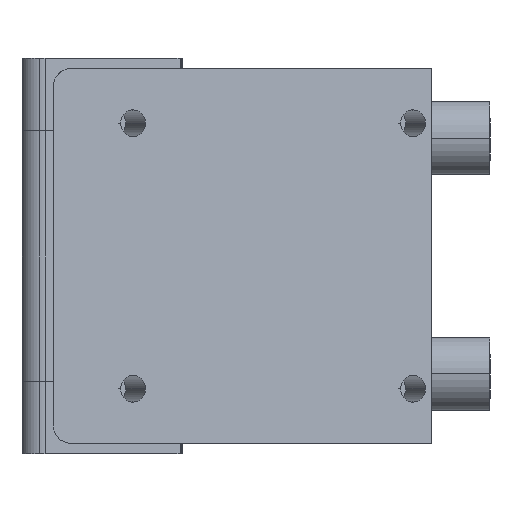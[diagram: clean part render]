
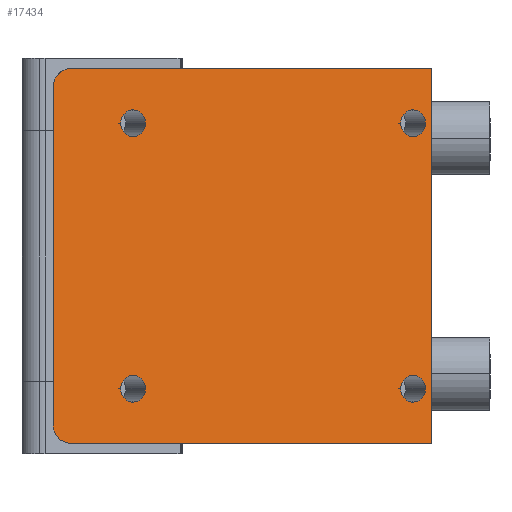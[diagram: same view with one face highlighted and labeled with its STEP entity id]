
A CAD part, left-side view. The second image highlights one B-rep face of the part: STEP entity #17434.
In plain terms, the highlighted planar face has unit normal (-0.94, -0.342, 0).
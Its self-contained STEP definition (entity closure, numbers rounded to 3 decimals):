
#34 = DIRECTION ( 'NONE',  ( 0.94, 0.342, 0. ) ) ;
#337 = VERTEX_POINT ( 'NONE', #1158 ) ;
#446 = VECTOR ( 'NONE', #11011, 1000. ) ;
#477 = VERTEX_POINT ( 'NONE', #5850 ) ;
#591 = EDGE_CURVE ( 'NONE', #4235, #21550, #9444, .T. ) ;
#843 = DIRECTION ( 'NONE',  ( 0.342, -0.94, 0. ) ) ;
#955 = CIRCLE ( 'NONE', #19304, 4.5 ) ;
#1137 = ORIENTED_EDGE ( 'NONE', *, *, #591, .T. ) ;
#1153 = EDGE_CURVE ( 'NONE', #9774, #1897, #4757, .T. ) ;
#1158 = CARTESIAN_POINT ( 'NONE',  ( 288.858, -16.649, 63.5 ) ) ;
#1263 = EDGE_LOOP ( 'NONE', ( #8737, #1137 ) ) ;
#1334 = AXIS2_PLACEMENT_3D ( 'NONE', #12872, #8618, #843 ) ;
#1663 =( BOUNDED_CURVE ( )  B_SPLINE_CURVE ( 3, ( #5653, #3904, #14034, #21936 ),
 .UNSPECIFIED., .F., .F. ) 
 B_SPLINE_CURVE_WITH_KNOTS ( ( 4, 4 ),
 ( 0., 1.571 ),
 .UNSPECIFIED. ) 
 CURVE ( )  GEOMETRIC_REPRESENTATION_ITEM ( )  RATIONAL_B_SPLINE_CURVE ( ( 1., 0.805, 0.805, 1. ) ) 
 REPRESENTATION_ITEM ( '' )  );
#1897 = VERTEX_POINT ( 'NONE', #20313 ) ;
#2168 = CARTESIAN_POINT ( 'NONE',  ( 286.674, -10.649, 61.015 ) ) ;
#2254 = EDGE_CURVE ( 'NONE', #9472, #25616, #22159, .T. ) ;
#2282 = CIRCLE ( 'NONE', #25762, 4.5 ) ;
#2421 = EDGE_LOOP ( 'NONE', ( #6309, #5363 ) ) ;
#2478 = DIRECTION ( 'NONE',  ( 0.94, 0.342, 0. ) ) ;
#2489 = PLANE ( 'NONE',  #3461 ) ;
#2567 = CARTESIAN_POINT ( 'NONE',  ( 286.674, -10.649, 57.5 ) ) ;
#2771 = EDGE_CURVE ( 'NONE', #21550, #4235, #7907, .T. ) ;
#3063 = DIRECTION ( 'NONE',  ( 0.94, 0.342, 0. ) ) ;
#3217 = CARTESIAN_POINT ( 'NONE',  ( 294.97, -33.442, 45. ) ) ;
#3376 = ORIENTED_EDGE ( 'NONE', *, *, #20753, .T. ) ;
#3461 = AXIS2_PLACEMENT_3D ( 'NONE', #24556, #18266, #16125 ) ;
#3541 = EDGE_CURVE ( 'NONE', #6238, #26355, #955, .T. ) ;
#3637 = CARTESIAN_POINT ( 'NONE',  ( 288.858, -16.649, -63.5 ) ) ;
#3902 = AXIS2_PLACEMENT_3D ( 'NONE', #18797, #25064, #16792 ) ;
#3904 = CARTESIAN_POINT ( 'NONE',  ( 286.674, -10.649, -61.015 ) ) ;
#4196 = ORIENTED_EDGE ( 'NONE', *, *, #10605, .T. ) ;
#4235 = VERTEX_POINT ( 'NONE', #3217 ) ;
#4391 = FACE_BOUND ( 'NONE', #21911, .T. ) ;
#4477 = CARTESIAN_POINT ( 'NONE',  ( 295.044, -33.645, 63.5 ) ) ;
#4580 = CARTESIAN_POINT ( 'NONE',  ( 288.858, -16.649, 63.5 ) ) ;
#4757 = LINE ( 'NONE', #6746, #446 ) ;
#5363 = ORIENTED_EDGE ( 'NONE', *, *, #3541, .T. ) ;
#5653 = CARTESIAN_POINT ( 'NONE',  ( 286.674, -10.649, -57.5 ) ) ;
#5670 = ORIENTED_EDGE ( 'NONE', *, *, #25586, .T. ) ;
#5730 = VERTEX_POINT ( 'NONE', #14691 ) ;
#5832 = ORIENTED_EDGE ( 'NONE', *, *, #6385, .T. ) ;
#5846 = EDGE_CURVE ( 'NONE', #26355, #6238, #25487, .T. ) ;
#5850 = CARTESIAN_POINT ( 'NONE',  ( 332.592, -136.808, -45. ) ) ;
#6221 = LINE ( 'NONE', #20107, #10578 ) ;
#6238 = VERTEX_POINT ( 'NONE', #13437 ) ;
#6309 = ORIENTED_EDGE ( 'NONE', *, *, #5846, .T. ) ;
#6385 = EDGE_CURVE ( 'NONE', #25616, #7974, #6221, .T. ) ;
#6449 = AXIS2_PLACEMENT_3D ( 'NONE', #18646, #2478, #21052 ) ;
#6746 = CARTESIAN_POINT ( 'NONE',  ( 286.674, -10.649, -38.5 ) ) ;
#6789 = ORIENTED_EDGE ( 'NONE', *, *, #1153, .T. ) ;
#7771 = ORIENTED_EDGE ( 'NONE', *, *, #21374, .T. ) ;
#7907 = CIRCLE ( 'NONE', #12161, 4.5 ) ;
#7974 = VERTEX_POINT ( 'NONE', #21839 ) ;
#8232 = ORIENTED_EDGE ( 'NONE', *, *, #25478, .T. ) ;
#8264 = FACE_BOUND ( 'NONE', #1263, .T. ) ;
#8343 = DIRECTION ( 'NONE',  ( 0.94, 0.342, 0. ) ) ;
#8618 = DIRECTION ( 'NONE',  ( 0.94, 0.342, 0. ) ) ;
#8737 = ORIENTED_EDGE ( 'NONE', *, *, #2771, .T. ) ;
#8992 = CARTESIAN_POINT ( 'NONE',  ( 296.509, -37.671, 45. ) ) ;
#9318 = DIRECTION ( 'NONE',  ( 0.94, 0.342, 0. ) ) ;
#9444 = CIRCLE ( 'NONE', #6449, 4.5 ) ;
#9472 = VERTEX_POINT ( 'NONE', #3637 ) ;
#9757 = ORIENTED_EDGE ( 'NONE', *, *, #2254, .T. ) ;
#9774 = VERTEX_POINT ( 'NONE', #24008 ) ;
#10414 = DIRECTION ( 'NONE',  ( 0.342, -0.94, 0. ) ) ;
#10578 = VECTOR ( 'NONE', #24645, 1000. ) ;
#10605 = EDGE_CURVE ( 'NONE', #1897, #9472, #1663, .T. ) ;
#11011 = DIRECTION ( 'NONE',  ( 0., 0., -1. ) ) ;
#11451 = ORIENTED_EDGE ( 'NONE', *, *, #17897, .T. ) ;
#12161 = AXIS2_PLACEMENT_3D ( 'NONE', #8992, #14995, #12718 ) ;
#12269 = CARTESIAN_POINT ( 'NONE',  ( 295.044, -33.645, -63.5 ) ) ;
#12718 = DIRECTION ( 'NONE',  ( 0.342, -0.94, 0. ) ) ;
#12844 = CIRCLE ( 'NONE', #1334, 4.5 ) ;
#12872 = CARTESIAN_POINT ( 'NONE',  ( 331.053, -132.58, -45. ) ) ;
#13437 = CARTESIAN_POINT ( 'NONE',  ( 294.97, -33.442, -45. ) ) ;
#13496 = CARTESIAN_POINT ( 'NONE',  ( 298.048, -41.899, 45. ) ) ;
#14034 = CARTESIAN_POINT ( 'NONE',  ( 287.579, -13.134, -63.5 ) ) ;
#14089 = EDGE_LOOP ( 'NONE', ( #6789, #4196, #9757, #5832, #8232, #7771 ) ) ;
#14691 = CARTESIAN_POINT ( 'NONE',  ( 329.514, -128.351, 45. ) ) ;
#14995 = DIRECTION ( 'NONE',  ( 0.94, 0.342, 0. ) ) ;
#16125 = DIRECTION ( 'NONE',  ( 0.342, -0.94, 0. ) ) ;
#16266 = CIRCLE ( 'NONE', #3902, 4.5 ) ;
#16335 = DIRECTION ( 'NONE',  ( 0.342, -0.94, 0. ) ) ;
#16792 = DIRECTION ( 'NONE',  ( 0.342, -0.94, 0. ) ) ;
#16941 = DIRECTION ( 'NONE',  ( 0.342, -0.94, 0. ) ) ;
#17434 = ADVANCED_FACE ( 'NONE', ( #22678, #22288, #4391, #20271, #8264 ), #2489, .T. ) ;
#17454 = DIRECTION ( 'NONE',  ( 0.342, -0.94, 0. ) ) ;
#17897 = EDGE_CURVE ( 'NONE', #22597, #477, #12844, .T. ) ;
#17913 = CARTESIAN_POINT ( 'NONE',  ( 298.048, -41.899, -45. ) ) ;
#18266 = DIRECTION ( 'NONE',  ( -0.94, -0.342, 0. ) ) ;
#18335 = CARTESIAN_POINT ( 'NONE',  ( 331.053, -132.58, -45. ) ) ;
#18646 = CARTESIAN_POINT ( 'NONE',  ( 296.509, -37.671, 45. ) ) ;
#18797 = CARTESIAN_POINT ( 'NONE',  ( 331.053, -132.58, 45. ) ) ;
#19304 = AXIS2_PLACEMENT_3D ( 'NONE', #26014, #9318, #17454 ) ;
#19385 = VECTOR ( 'NONE', #10414, 1000. ) ;
#20107 = CARTESIAN_POINT ( 'NONE',  ( 333.262, -138.649, 63.5 ) ) ;
#20221 = DIRECTION ( 'NONE',  ( -0.342, 0.94, 0. ) ) ;
#20271 = FACE_BOUND ( 'NONE', #20292, .T. ) ;
#20292 = EDGE_LOOP ( 'NONE', ( #25984, #11451 ) ) ;
#20313 = CARTESIAN_POINT ( 'NONE',  ( 286.674, -10.649, -57.5 ) ) ;
#20348 = CARTESIAN_POINT ( 'NONE',  ( 333.262, -138.649, -63.5 ) ) ;
#20753 = EDGE_CURVE ( 'NONE', #5730, #23431, #16266, .T. ) ;
#20860 = CARTESIAN_POINT ( 'NONE',  ( 287.579, -13.134, 63.5 ) ) ;
#20948 =( BOUNDED_CURVE ( )  B_SPLINE_CURVE ( 3, ( #4580, #20860, #2168, #2567 ),
 .UNSPECIFIED., .F., .F. ) 
 B_SPLINE_CURVE_WITH_KNOTS ( ( 4, 4 ),
 ( 1.571, 3.142 ),
 .UNSPECIFIED. ) 
 CURVE ( )  GEOMETRIC_REPRESENTATION_ITEM ( )  RATIONAL_B_SPLINE_CURVE ( ( 1., 0.805, 0.805, 1. ) ) 
 REPRESENTATION_ITEM ( '' )  );
#20977 = AXIS2_PLACEMENT_3D ( 'NONE', #18335, #34, #16335 ) ;
#21052 = DIRECTION ( 'NONE',  ( 0.342, -0.94, 0. ) ) ;
#21209 = AXIS2_PLACEMENT_3D ( 'NONE', #21496, #3063, #16941 ) ;
#21252 = EDGE_CURVE ( 'NONE', #477, #22597, #22261, .T. ) ;
#21374 = EDGE_CURVE ( 'NONE', #337, #9774, #20948, .T. ) ;
#21496 = CARTESIAN_POINT ( 'NONE',  ( 296.509, -37.671, -45. ) ) ;
#21550 = VERTEX_POINT ( 'NONE', #13496 ) ;
#21839 = CARTESIAN_POINT ( 'NONE',  ( 333.262, -138.649, 63.5 ) ) ;
#21911 = EDGE_LOOP ( 'NONE', ( #5670, #3376 ) ) ;
#21936 = CARTESIAN_POINT ( 'NONE',  ( 288.858, -16.649, -63.5 ) ) ;
#22159 = LINE ( 'NONE', #12269, #19385 ) ;
#22261 = CIRCLE ( 'NONE', #20977, 4.5 ) ;
#22288 = FACE_BOUND ( 'NONE', #2421, .T. ) ;
#22369 = DIRECTION ( 'NONE',  ( 0.342, -0.94, 0. ) ) ;
#22493 = LINE ( 'NONE', #4477, #26191 ) ;
#22597 = VERTEX_POINT ( 'NONE', #25284 ) ;
#22678 = FACE_OUTER_BOUND ( 'NONE', #14089, .T. ) ;
#23431 = VERTEX_POINT ( 'NONE', #24887 ) ;
#24008 = CARTESIAN_POINT ( 'NONE',  ( 286.674, -10.649, 57.5 ) ) ;
#24511 = CARTESIAN_POINT ( 'NONE',  ( 331.053, -132.58, 45. ) ) ;
#24556 = CARTESIAN_POINT ( 'NONE',  ( 295.044, -33.645, -38.5 ) ) ;
#24645 = DIRECTION ( 'NONE',  ( 0., 0., 1. ) ) ;
#24887 = CARTESIAN_POINT ( 'NONE',  ( 332.592, -136.808, 45. ) ) ;
#25064 = DIRECTION ( 'NONE',  ( 0.94, 0.342, 0. ) ) ;
#25284 = CARTESIAN_POINT ( 'NONE',  ( 329.514, -128.351, -45. ) ) ;
#25478 = EDGE_CURVE ( 'NONE', #7974, #337, #22493, .T. ) ;
#25487 = CIRCLE ( 'NONE', #21209, 4.5 ) ;
#25586 = EDGE_CURVE ( 'NONE', #23431, #5730, #2282, .T. ) ;
#25616 = VERTEX_POINT ( 'NONE', #20348 ) ;
#25762 = AXIS2_PLACEMENT_3D ( 'NONE', #24511, #8343, #22369 ) ;
#25984 = ORIENTED_EDGE ( 'NONE', *, *, #21252, .T. ) ;
#26014 = CARTESIAN_POINT ( 'NONE',  ( 296.509, -37.671, -45. ) ) ;
#26191 = VECTOR ( 'NONE', #20221, 1000. ) ;
#26355 = VERTEX_POINT ( 'NONE', #17913 ) ;
